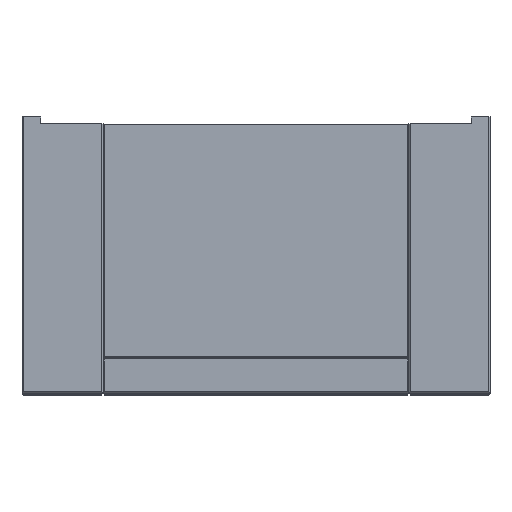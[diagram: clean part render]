
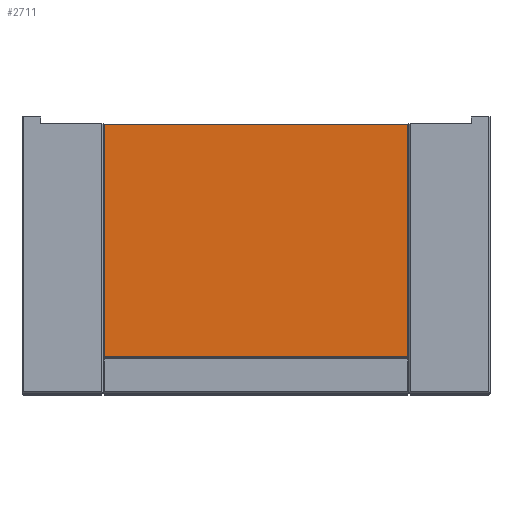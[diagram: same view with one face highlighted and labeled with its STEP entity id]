
A CAD part, top view. The second image highlights one B-rep face of the part: STEP entity #2711.
In plain terms, the highlighted planar face has unit normal (0, 0, 1).
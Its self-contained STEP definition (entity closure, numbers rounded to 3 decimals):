
#2711 = ADVANCED_FACE( '', ( #6570 ), #6571, .T. );
#6570 = FACE_OUTER_BOUND( '', #12021, .T. );
#6571 = PLANE( '', #12022 );
#12021 = EDGE_LOOP( '', ( #19856, #19857, #19858, #19859 ) );
#12022 = AXIS2_PLACEMENT_3D( '', #19860, #19861, #19862 );
#19856 = ORIENTED_EDGE( '', *, *, #35884, .T. );
#19857 = ORIENTED_EDGE( '', *, *, #34416, .T. );
#19858 = ORIENTED_EDGE( '', *, *, #35885, .F. );
#19859 = ORIENTED_EDGE( '', *, *, #35886, .T. );
#19860 = CARTESIAN_POINT( '', ( -343., -15., 1618. ) );
#19861 = DIRECTION( '', ( 0., 0., 1. ) );
#19862 = DIRECTION( '', ( 1., 0., 0. ) );
#34416 = EDGE_CURVE( '', #40845, #40842, #40846, .T. );
#35884 = EDGE_CURVE( '', #43292, #40845, #43293, .T. );
#35885 = EDGE_CURVE( '', #43294, #40842, #43295, .T. );
#35886 = EDGE_CURVE( '', #43294, #43292, #43296, .T. );
#40842 = VERTEX_POINT( '', #50126 );
#40845 = VERTEX_POINT( '', #50130 );
#40846 = LINE( '', #50131, #50132 );
#43292 = VERTEX_POINT( '', #54839 );
#43293 = LINE( '', #54840, #54841 );
#43294 = VERTEX_POINT( '', #54842 );
#43295 = LINE( '', #54843, #54844 );
#43296 = LINE( '', #54845, #54846 );
#50126 = CARTESIAN_POINT( '', ( 340., -15., 1618. ) );
#50130 = CARTESIAN_POINT( '', ( 340., -537.183, 1618. ) );
#50131 = CARTESIAN_POINT( '', ( 340., -15., 1618. ) );
#50132 = VECTOR( '', #67538, 1000. );
#54839 = CARTESIAN_POINT( '', ( -340., -537.183, 1618. ) );
#54840 = CARTESIAN_POINT( '', ( -343., -537.183, 1618. ) );
#54841 = VECTOR( '', #68616, 1000. );
#54842 = CARTESIAN_POINT( '', ( -340., -15., 1618. ) );
#54843 = CARTESIAN_POINT( '', ( -343., -15., 1618. ) );
#54844 = VECTOR( '', #68617, 1000. );
#54845 = CARTESIAN_POINT( '', ( -340., -15., 1618. ) );
#54846 = VECTOR( '', #68618, 1000. );
#67538 = DIRECTION( '', ( 0., 1., 0. ) );
#68616 = DIRECTION( '', ( 1., 0., 0. ) );
#68617 = DIRECTION( '', ( 1., 0., 0. ) );
#68618 = DIRECTION( '', ( 0., -1., 0. ) );
